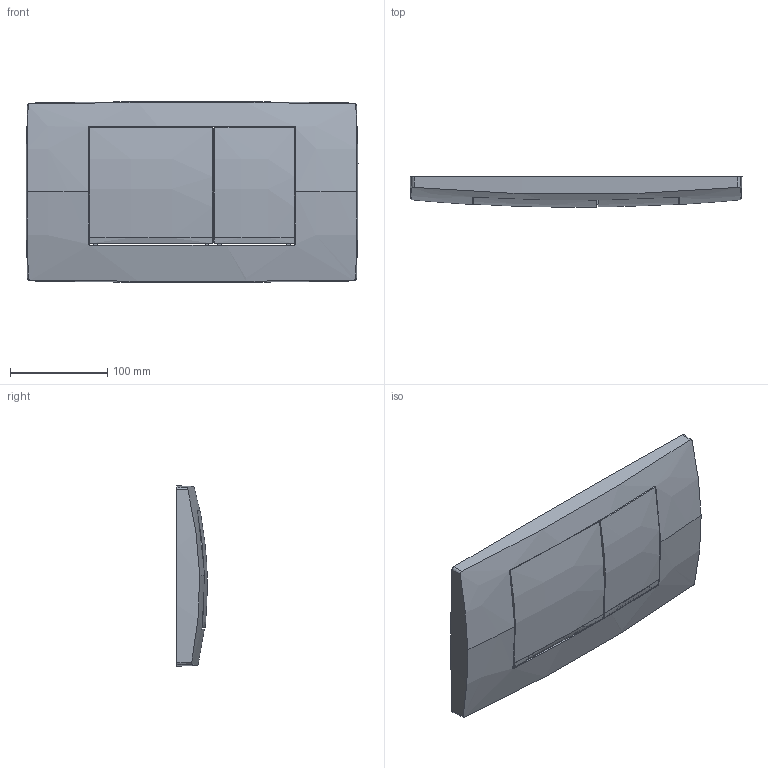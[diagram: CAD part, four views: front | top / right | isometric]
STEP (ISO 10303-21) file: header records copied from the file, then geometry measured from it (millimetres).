
FILE_DESCRIPTION( ( 'STEP AP214' ), '1' );
FILE_NAME( 'C:/Users/ilukic/Documents/ex/paket6/actuator_plates/for_twinline_concealed_cistern/act pl Twinline30 dual/115899.stp', '2021-06-01T08:51:33', ( 'License CC BY-ND 4.0' ), ( 'CADENAS' ), ' ', 'PARTsolutions', ' ' );
FILE_SCHEMA( ( 'AUTOMOTIVE_DESIGN { 1 0 10303 214 1 1 1 1 }' ) );
Length unit declared in the file: millimetre
Products named in the file (6): 115899; _115.899.KJ.1_actuator plate TwinLine30 dual flush; _115.899.KJ.1_act button TwinLine30 dual flush big; _115.899.KJ.1_design stripe TwinLine30 big; _115.899.KJ.1_act button TwinLine30 dual flush small; _115.899.KJ.1_design stripe TwinLine30 small
Assembly tree (5 placements, depth 2):
  115899
    _115.899.KJ.1_actuator plate TwinLine30 dual flush
    _115.899.KJ.1_act button TwinLine30 dual flush big
    _115.899.KJ.1_design stripe TwinLine30 big
    _115.899.KJ.1_act button TwinLine30 dual flush small
    _115.899.KJ.1_design stripe TwinLine30 small
Bounding box: 341.25 x 31.35 x 185.65 mm (x, y, z)
Volume: 365170.6 mm3; surface area: 204567 mm2
Topology: 5 solids, 5 shells, 967 faces, 2749 edges, 1813 vertices
Faces by surface type: plane 640, cylinder 253, cone 49, torus 20, bspline 5
Full cylindrical faces by diameter (mm): 1.644 x1, 1.658 x1, 6.076 x2, 6.474 x2, 7.57 x2, 7.95 x4, 7.968 x2, 9.56 x2, 9.96 x2
Entity records: 40631 total; most frequent: CARTESIAN_POINT 7855, ORIENTED_EDGE 5422, DIRECTION 4922, EDGE_CURVE 2711, LINE 1820, VECTOR 1820, VERTEX_POINT 1797, AXIS2_PLACEMENT_3D 1551
